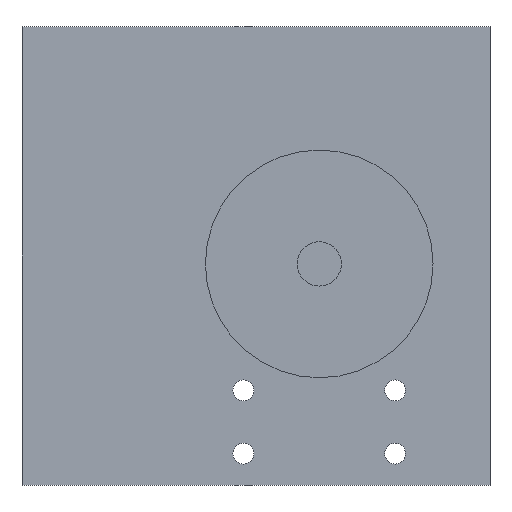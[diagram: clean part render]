
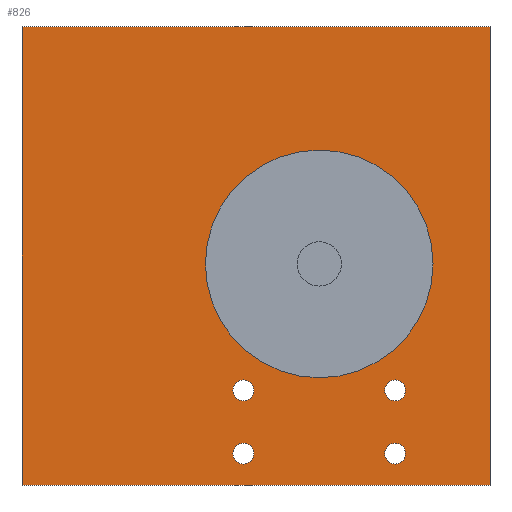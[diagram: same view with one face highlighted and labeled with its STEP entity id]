
A CAD part, front view. The second image highlights one B-rep face of the part: STEP entity #826.
In plain terms, the highlighted planar face has unit normal (0, -1, 0).
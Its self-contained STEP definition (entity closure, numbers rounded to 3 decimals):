
#44 = PLANE('',#45);
#45 = AXIS2_PLACEMENT_3D('',#46,#47,#48);
#46 = CARTESIAN_POINT('',(-47.,19.8,37.5));
#47 = DIRECTION('',(1.,0.,0.));
#48 = DIRECTION('',(0.,0.,-1.));
#100 = PLANE('',#101);
#101 = AXIS2_PLACEMENT_3D('',#102,#103,#104);
#102 = CARTESIAN_POINT('',(27.,19.8,-35.));
#103 = DIRECTION('',(-1.,0.,0.));
#104 = DIRECTION('',(0.,0.,1.));
#165 = VERTEX_POINT('',#166);
#166 = CARTESIAN_POINT('',(-47.,-19.8,37.5));
#180 = PLANE('',#181);
#181 = AXIS2_PLACEMENT_3D('',#182,#183,#184);
#182 = CARTESIAN_POINT('',(27.,19.8,37.5));
#183 = DIRECTION('',(-0.,-0.,-1.));
#184 = DIRECTION('',(-1.,0.,0.));
#192 = EDGE_CURVE('',#193,#165,#195,.T.);
#193 = VERTEX_POINT('',#194);
#194 = CARTESIAN_POINT('',(-47.,-19.8,-35.));
#195 = SURFACE_CURVE('',#196,(#200,#207),.PCURVE_S1.);
#196 = LINE('',#197,#198);
#197 = CARTESIAN_POINT('',(-47.,-19.8,-35.));
#198 = VECTOR('',#199,1.);
#199 = DIRECTION('',(0.,0.,1.));
#200 = PCURVE('',#44,#201);
#201 = DEFINITIONAL_REPRESENTATION('',(#202),#206);
#202 = LINE('',#203,#204);
#203 = CARTESIAN_POINT('',(72.5,-39.6));
#204 = VECTOR('',#205,1.);
#205 = DIRECTION('',(-1.,0.));
#206 = ( GEOMETRIC_REPRESENTATION_CONTEXT(2) 
PARAMETRIC_REPRESENTATION_CONTEXT() REPRESENTATION_CONTEXT('2D SPACE',''
  ) );
#207 = PCURVE('',#208,#213);
#208 = PLANE('',#209);
#209 = AXIS2_PLACEMENT_3D('',#210,#211,#212);
#210 = CARTESIAN_POINT('',(-10.,-19.8,1.25));
#211 = DIRECTION('',(-0.,-1.,-0.));
#212 = DIRECTION('',(0.,0.,-1.));
#213 = DEFINITIONAL_REPRESENTATION('',(#214),#218);
#214 = LINE('',#215,#216);
#215 = CARTESIAN_POINT('',(36.25,-37.));
#216 = VECTOR('',#217,1.);
#217 = DIRECTION('',(-1.,0.));
#218 = ( GEOMETRIC_REPRESENTATION_CONTEXT(2) 
PARAMETRIC_REPRESENTATION_CONTEXT() REPRESENTATION_CONTEXT('2D SPACE',''
  ) );
#236 = PLANE('',#237);
#237 = AXIS2_PLACEMENT_3D('',#238,#239,#240);
#238 = CARTESIAN_POINT('',(-47.,-16.3,-35.));
#239 = DIRECTION('',(-0.,0.,1.));
#240 = DIRECTION('',(1.,0.,0.));
#423 = VERTEX_POINT('',#424);
#424 = CARTESIAN_POINT('',(27.,-19.8,-35.));
#445 = EDGE_CURVE('',#446,#423,#448,.T.);
#446 = VERTEX_POINT('',#447);
#447 = CARTESIAN_POINT('',(27.,-19.8,37.5));
#448 = SURFACE_CURVE('',#449,(#453,#460),.PCURVE_S1.);
#449 = LINE('',#450,#451);
#450 = CARTESIAN_POINT('',(27.,-19.8,37.5));
#451 = VECTOR('',#452,1.);
#452 = DIRECTION('',(0.,0.,-1.));
#453 = PCURVE('',#100,#454);
#454 = DEFINITIONAL_REPRESENTATION('',(#455),#459);
#455 = LINE('',#456,#457);
#456 = CARTESIAN_POINT('',(72.5,-39.6));
#457 = VECTOR('',#458,1.);
#458 = DIRECTION('',(-1.,0.));
#459 = ( GEOMETRIC_REPRESENTATION_CONTEXT(2) 
PARAMETRIC_REPRESENTATION_CONTEXT() REPRESENTATION_CONTEXT('2D SPACE',''
  ) );
#460 = PCURVE('',#208,#461);
#461 = DEFINITIONAL_REPRESENTATION('',(#462),#466);
#462 = LINE('',#463,#464);
#463 = CARTESIAN_POINT('',(-36.25,37.));
#464 = VECTOR('',#465,1.);
#465 = DIRECTION('',(1.,0.));
#466 = ( GEOMETRIC_REPRESENTATION_CONTEXT(2) 
PARAMETRIC_REPRESENTATION_CONTEXT() REPRESENTATION_CONTEXT('2D SPACE',''
  ) );
#804 = EDGE_CURVE('',#446,#165,#805,.T.);
#805 = SURFACE_CURVE('',#806,(#810,#817),.PCURVE_S1.);
#806 = LINE('',#807,#808);
#807 = CARTESIAN_POINT('',(27.,-19.8,37.5));
#808 = VECTOR('',#809,1.);
#809 = DIRECTION('',(-1.,0.,0.));
#810 = PCURVE('',#180,#811);
#811 = DEFINITIONAL_REPRESENTATION('',(#812),#816);
#812 = LINE('',#813,#814);
#813 = CARTESIAN_POINT('',(0.,-39.6));
#814 = VECTOR('',#815,1.);
#815 = DIRECTION('',(1.,0.));
#816 = ( GEOMETRIC_REPRESENTATION_CONTEXT(2) 
PARAMETRIC_REPRESENTATION_CONTEXT() REPRESENTATION_CONTEXT('2D SPACE',''
  ) );
#817 = PCURVE('',#208,#818);
#818 = DEFINITIONAL_REPRESENTATION('',(#819),#823);
#819 = LINE('',#820,#821);
#820 = CARTESIAN_POINT('',(-36.25,37.));
#821 = VECTOR('',#822,1.);
#822 = DIRECTION('',(0.,-1.));
#823 = ( GEOMETRIC_REPRESENTATION_CONTEXT(2) 
PARAMETRIC_REPRESENTATION_CONTEXT() REPRESENTATION_CONTEXT('2D SPACE',''
  ) );
#826 = ADVANCED_FACE('',(#827,#853,#884,#915,#946,#977),#208,.T.);
#827 = FACE_BOUND('',#828,.T.);
#828 = EDGE_LOOP('',(#829,#830,#851,#852));
#829 = ORIENTED_EDGE('',*,*,#192,.F.);
#830 = ORIENTED_EDGE('',*,*,#831,.T.);
#831 = EDGE_CURVE('',#193,#423,#832,.T.);
#832 = SURFACE_CURVE('',#833,(#837,#844),.PCURVE_S1.);
#833 = LINE('',#834,#835);
#834 = CARTESIAN_POINT('',(-47.,-19.8,-35.));
#835 = VECTOR('',#836,1.);
#836 = DIRECTION('',(1.,0.,0.));
#837 = PCURVE('',#208,#838);
#838 = DEFINITIONAL_REPRESENTATION('',(#839),#843);
#839 = LINE('',#840,#841);
#840 = CARTESIAN_POINT('',(36.25,-37.));
#841 = VECTOR('',#842,1.);
#842 = DIRECTION('',(0.,1.));
#843 = ( GEOMETRIC_REPRESENTATION_CONTEXT(2) 
PARAMETRIC_REPRESENTATION_CONTEXT() REPRESENTATION_CONTEXT('2D SPACE',''
  ) );
#844 = PCURVE('',#236,#845);
#845 = DEFINITIONAL_REPRESENTATION('',(#846),#850);
#846 = LINE('',#847,#848);
#847 = CARTESIAN_POINT('',(0.,-3.5));
#848 = VECTOR('',#849,1.);
#849 = DIRECTION('',(1.,0.));
#850 = ( GEOMETRIC_REPRESENTATION_CONTEXT(2) 
PARAMETRIC_REPRESENTATION_CONTEXT() REPRESENTATION_CONTEXT('2D SPACE',''
  ) );
#851 = ORIENTED_EDGE('',*,*,#445,.F.);
#852 = ORIENTED_EDGE('',*,*,#804,.T.);
#853 = FACE_BOUND('',#854,.T.);
#854 = EDGE_LOOP('',(#855));
#855 = ORIENTED_EDGE('',*,*,#856,.F.);
#856 = EDGE_CURVE('',#857,#857,#859,.T.);
#857 = VERTEX_POINT('',#858);
#858 = CARTESIAN_POINT('',(-10.35,-19.8,-20.));
#859 = SURFACE_CURVE('',#860,(#865,#872),.PCURVE_S1.);
#860 = CIRCLE('',#861,1.65);
#861 = AXIS2_PLACEMENT_3D('',#862,#863,#864);
#862 = CARTESIAN_POINT('',(-12.,-19.8,-20.));
#863 = DIRECTION('',(0.,-1.,-0.));
#864 = DIRECTION('',(1.,0.,0.));
#865 = PCURVE('',#208,#866);
#866 = DEFINITIONAL_REPRESENTATION('',(#867),#871);
#867 = CIRCLE('',#868,1.65);
#868 = AXIS2_PLACEMENT_2D('',#869,#870);
#869 = CARTESIAN_POINT('',(21.25,-2.));
#870 = DIRECTION('',(0.,1.));
#871 = ( GEOMETRIC_REPRESENTATION_CONTEXT(2) 
PARAMETRIC_REPRESENTATION_CONTEXT() REPRESENTATION_CONTEXT('2D SPACE',''
  ) );
#872 = PCURVE('',#873,#878);
#873 = CYLINDRICAL_SURFACE('',#874,1.65);
#874 = AXIS2_PLACEMENT_3D('',#875,#876,#877);
#875 = CARTESIAN_POINT('',(-12.,-24.,-20.));
#876 = DIRECTION('',(0.,-1.,-0.));
#877 = DIRECTION('',(1.,0.,0.));
#878 = DEFINITIONAL_REPRESENTATION('',(#879),#883);
#879 = LINE('',#880,#881);
#880 = CARTESIAN_POINT('',(-6.283,-4.2));
#881 = VECTOR('',#882,1.);
#882 = DIRECTION('',(1.,-0.));
#883 = ( GEOMETRIC_REPRESENTATION_CONTEXT(2) 
PARAMETRIC_REPRESENTATION_CONTEXT() REPRESENTATION_CONTEXT('2D SPACE',''
  ) );
#884 = FACE_BOUND('',#885,.T.);
#885 = EDGE_LOOP('',(#886));
#886 = ORIENTED_EDGE('',*,*,#887,.F.);
#887 = EDGE_CURVE('',#888,#888,#890,.T.);
#888 = VERTEX_POINT('',#889);
#889 = CARTESIAN_POINT('',(-10.35,-19.8,-30.));
#890 = SURFACE_CURVE('',#891,(#896,#903),.PCURVE_S1.);
#891 = CIRCLE('',#892,1.65);
#892 = AXIS2_PLACEMENT_3D('',#893,#894,#895);
#893 = CARTESIAN_POINT('',(-12.,-19.8,-30.));
#894 = DIRECTION('',(0.,-1.,-0.));
#895 = DIRECTION('',(1.,0.,0.));
#896 = PCURVE('',#208,#897);
#897 = DEFINITIONAL_REPRESENTATION('',(#898),#902);
#898 = CIRCLE('',#899,1.65);
#899 = AXIS2_PLACEMENT_2D('',#900,#901);
#900 = CARTESIAN_POINT('',(31.25,-2.));
#901 = DIRECTION('',(0.,1.));
#902 = ( GEOMETRIC_REPRESENTATION_CONTEXT(2) 
PARAMETRIC_REPRESENTATION_CONTEXT() REPRESENTATION_CONTEXT('2D SPACE',''
  ) );
#903 = PCURVE('',#904,#909);
#904 = CYLINDRICAL_SURFACE('',#905,1.65);
#905 = AXIS2_PLACEMENT_3D('',#906,#907,#908);
#906 = CARTESIAN_POINT('',(-12.,-24.,-30.));
#907 = DIRECTION('',(0.,-1.,-0.));
#908 = DIRECTION('',(1.,0.,0.));
#909 = DEFINITIONAL_REPRESENTATION('',(#910),#914);
#910 = LINE('',#911,#912);
#911 = CARTESIAN_POINT('',(-6.283,-4.2));
#912 = VECTOR('',#913,1.);
#913 = DIRECTION('',(1.,-0.));
#914 = ( GEOMETRIC_REPRESENTATION_CONTEXT(2) 
PARAMETRIC_REPRESENTATION_CONTEXT() REPRESENTATION_CONTEXT('2D SPACE',''
  ) );
#915 = FACE_BOUND('',#916,.T.);
#916 = EDGE_LOOP('',(#917));
#917 = ORIENTED_EDGE('',*,*,#918,.F.);
#918 = EDGE_CURVE('',#919,#919,#921,.T.);
#919 = VERTEX_POINT('',#920);
#920 = CARTESIAN_POINT('',(18.,-19.8,0.));
#921 = SURFACE_CURVE('',#922,(#927,#934),.PCURVE_S1.);
#922 = CIRCLE('',#923,18.);
#923 = AXIS2_PLACEMENT_3D('',#924,#925,#926);
#924 = CARTESIAN_POINT('',(0.,-19.8,0.));
#925 = DIRECTION('',(0.,-1.,-0.));
#926 = DIRECTION('',(1.,0.,0.));
#927 = PCURVE('',#208,#928);
#928 = DEFINITIONAL_REPRESENTATION('',(#929),#933);
#929 = CIRCLE('',#930,18.);
#930 = AXIS2_PLACEMENT_2D('',#931,#932);
#931 = CARTESIAN_POINT('',(1.25,10.));
#932 = DIRECTION('',(0.,1.));
#933 = ( GEOMETRIC_REPRESENTATION_CONTEXT(2) 
PARAMETRIC_REPRESENTATION_CONTEXT() REPRESENTATION_CONTEXT('2D SPACE',''
  ) );
#934 = PCURVE('',#935,#940);
#935 = CYLINDRICAL_SURFACE('',#936,18.);
#936 = AXIS2_PLACEMENT_3D('',#937,#938,#939);
#937 = CARTESIAN_POINT('',(0.,-26.,0.));
#938 = DIRECTION('',(0.,-1.,-0.));
#939 = DIRECTION('',(1.,0.,0.));
#940 = DEFINITIONAL_REPRESENTATION('',(#941),#945);
#941 = LINE('',#942,#943);
#942 = CARTESIAN_POINT('',(-6.283,-6.2));
#943 = VECTOR('',#944,1.);
#944 = DIRECTION('',(1.,-0.));
#945 = ( GEOMETRIC_REPRESENTATION_CONTEXT(2) 
PARAMETRIC_REPRESENTATION_CONTEXT() REPRESENTATION_CONTEXT('2D SPACE',''
  ) );
#946 = FACE_BOUND('',#947,.T.);
#947 = EDGE_LOOP('',(#948));
#948 = ORIENTED_EDGE('',*,*,#949,.F.);
#949 = EDGE_CURVE('',#950,#950,#952,.T.);
#950 = VERTEX_POINT('',#951);
#951 = CARTESIAN_POINT('',(13.65,-19.8,-20.));
#952 = SURFACE_CURVE('',#953,(#958,#965),.PCURVE_S1.);
#953 = CIRCLE('',#954,1.65);
#954 = AXIS2_PLACEMENT_3D('',#955,#956,#957);
#955 = CARTESIAN_POINT('',(12.,-19.8,-20.));
#956 = DIRECTION('',(0.,-1.,-0.));
#957 = DIRECTION('',(1.,0.,0.));
#958 = PCURVE('',#208,#959);
#959 = DEFINITIONAL_REPRESENTATION('',(#960),#964);
#960 = CIRCLE('',#961,1.65);
#961 = AXIS2_PLACEMENT_2D('',#962,#963);
#962 = CARTESIAN_POINT('',(21.25,22.));
#963 = DIRECTION('',(0.,1.));
#964 = ( GEOMETRIC_REPRESENTATION_CONTEXT(2) 
PARAMETRIC_REPRESENTATION_CONTEXT() REPRESENTATION_CONTEXT('2D SPACE',''
  ) );
#965 = PCURVE('',#966,#971);
#966 = CYLINDRICAL_SURFACE('',#967,1.65);
#967 = AXIS2_PLACEMENT_3D('',#968,#969,#970);
#968 = CARTESIAN_POINT('',(12.,-24.,-20.));
#969 = DIRECTION('',(0.,-1.,-0.));
#970 = DIRECTION('',(1.,0.,0.));
#971 = DEFINITIONAL_REPRESENTATION('',(#972),#976);
#972 = LINE('',#973,#974);
#973 = CARTESIAN_POINT('',(-6.283,-4.2));
#974 = VECTOR('',#975,1.);
#975 = DIRECTION('',(1.,-0.));
#976 = ( GEOMETRIC_REPRESENTATION_CONTEXT(2) 
PARAMETRIC_REPRESENTATION_CONTEXT() REPRESENTATION_CONTEXT('2D SPACE',''
  ) );
#977 = FACE_BOUND('',#978,.T.);
#978 = EDGE_LOOP('',(#979));
#979 = ORIENTED_EDGE('',*,*,#980,.F.);
#980 = EDGE_CURVE('',#981,#981,#983,.T.);
#981 = VERTEX_POINT('',#982);
#982 = CARTESIAN_POINT('',(13.65,-19.8,-30.));
#983 = SURFACE_CURVE('',#984,(#989,#996),.PCURVE_S1.);
#984 = CIRCLE('',#985,1.65);
#985 = AXIS2_PLACEMENT_3D('',#986,#987,#988);
#986 = CARTESIAN_POINT('',(12.,-19.8,-30.));
#987 = DIRECTION('',(0.,-1.,-0.));
#988 = DIRECTION('',(1.,0.,0.));
#989 = PCURVE('',#208,#990);
#990 = DEFINITIONAL_REPRESENTATION('',(#991),#995);
#991 = CIRCLE('',#992,1.65);
#992 = AXIS2_PLACEMENT_2D('',#993,#994);
#993 = CARTESIAN_POINT('',(31.25,22.));
#994 = DIRECTION('',(0.,1.));
#995 = ( GEOMETRIC_REPRESENTATION_CONTEXT(2) 
PARAMETRIC_REPRESENTATION_CONTEXT() REPRESENTATION_CONTEXT('2D SPACE',''
  ) );
#996 = PCURVE('',#997,#1002);
#997 = CYLINDRICAL_SURFACE('',#998,1.65);
#998 = AXIS2_PLACEMENT_3D('',#999,#1000,#1001);
#999 = CARTESIAN_POINT('',(12.,-24.,-30.));
#1000 = DIRECTION('',(0.,-1.,-0.));
#1001 = DIRECTION('',(1.,0.,0.));
#1002 = DEFINITIONAL_REPRESENTATION('',(#1003),#1007);
#1003 = LINE('',#1004,#1005);
#1004 = CARTESIAN_POINT('',(-6.283,-4.2));
#1005 = VECTOR('',#1006,1.);
#1006 = DIRECTION('',(1.,-0.));
#1007 = ( GEOMETRIC_REPRESENTATION_CONTEXT(2) 
PARAMETRIC_REPRESENTATION_CONTEXT() REPRESENTATION_CONTEXT('2D SPACE',''
  ) );
